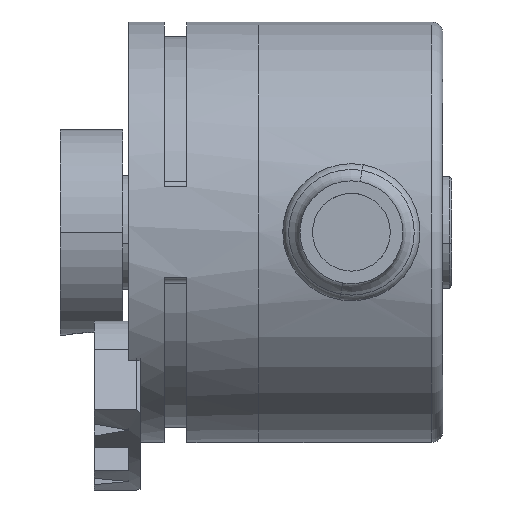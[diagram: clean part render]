
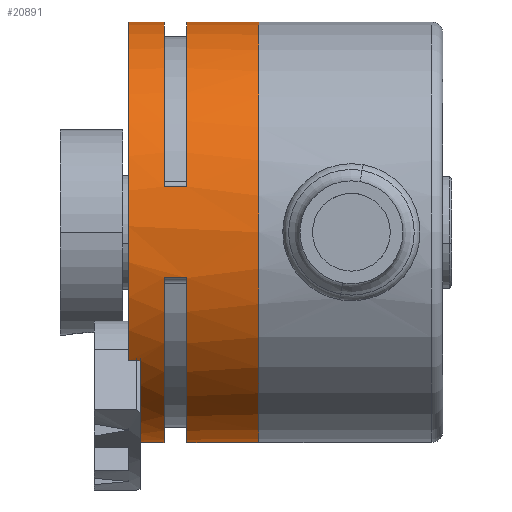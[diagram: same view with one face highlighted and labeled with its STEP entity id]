
A CAD part, front view. The second image highlights one B-rep face of the part: STEP entity #20891.
In plain terms, the highlighted cylindrical face has radius 18.4 mm (diameter 36.8 mm), a partial arc.
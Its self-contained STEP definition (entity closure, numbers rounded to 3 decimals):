
#15435 = CARTESIAN_POINT ( 'NONE',  ( 81.16, -19.944, -18.237 ) ) ;
#19491 = CARTESIAN_POINT ( 'NONE',  ( 86.26, -35.458, 4. ) ) ;
#19543 = DIRECTION ( 'NONE',  ( -1., 0., 0. ) ) ;
#19544 = VECTOR ( 'NONE', #19543, 1000. ) ;
#19545 = CARTESIAN_POINT ( 'NONE',  ( 82.16, -19.944, -18.237 ) ) ;
#19547 = LINE ( 'NONE', #19545, #19544 ) ;
#20066 = VERTEX_POINT ( 'NONE', #19491 ) ;
#20068 = EDGE_CURVE ( 'NONE', #21005, #35901, #19547, .T. ) ;
#20882 = ORIENTED_EDGE ( 'NONE', *, *, #20884, .T. ) ;
#20884 = EDGE_CURVE ( 'NONE', #23393, #20066, #23139, .T. ) ;
#20885 = ORIENTED_EDGE ( 'NONE', *, *, #20908, .T. ) ;
#20886 = ORIENTED_EDGE ( 'NONE', *, *, #23392, .T. ) ;
#20888 = ORIENTED_EDGE ( 'NONE', *, *, #23398, .F. ) ;
#20891 = ADVANCED_FACE ( 'NONE', ( #23117 ), #23208, .T. ) ;
#20895 = EDGE_LOOP ( 'NONE', ( #20888, #20885, #20886, #20882, #21018, #21014, #21020, #21022, #21002, #21006, #21010, #21117, #21062, #21111, #21108, #21036 ) ) ;
#20908 = EDGE_CURVE ( 'NONE', #23213, #23113, #23278, .T. ) ;
#20996 = VERTEX_POINT ( 'NONE', #25482 ) ;
#21002 = ORIENTED_EDGE ( 'NONE', *, *, #21004, .F. ) ;
#21004 = EDGE_CURVE ( 'NONE', #20996, #21012, #25477, .T. ) ;
#21005 = VERTEX_POINT ( 'NONE', #25470 ) ;
#21006 = ORIENTED_EDGE ( 'NONE', *, *, #21009, .F. ) ;
#21009 = EDGE_CURVE ( 'NONE', #21005, #20996, #25465, .T. ) ;
#21010 = ORIENTED_EDGE ( 'NONE', *, *, #20068, .T. ) ;
#21011 = EDGE_CURVE ( 'NONE', #21012, #23292, #25453, .T. ) ;
#21012 = VERTEX_POINT ( 'NONE', #25444 ) ;
#21014 = ORIENTED_EDGE ( 'NONE', *, *, #21016, .F. ) ;
#21016 = EDGE_CURVE ( 'NONE', #23250, #21024, #25436, .T. ) ;
#21018 = ORIENTED_EDGE ( 'NONE', *, *, #21021, .T. ) ;
#21020 = ORIENTED_EDGE ( 'NONE', *, *, #23359, .T. ) ;
#21021 = EDGE_CURVE ( 'NONE', #20066, #21024, #25438, .T. ) ;
#21022 = ORIENTED_EDGE ( 'NONE', *, *, #21011, .F. ) ;
#21024 = VERTEX_POINT ( 'NONE', #25420 ) ;
#21036 = ORIENTED_EDGE ( 'NONE', *, *, #21145, .T. ) ;
#21062 = ORIENTED_EDGE ( 'NONE', *, *, #23331, .F. ) ;
#21067 = VERTEX_POINT ( 'NONE', #25578 ) ;
#21071 = EDGE_CURVE ( 'NONE', #21138, #23341, #25664, .T. ) ;
#21108 = ORIENTED_EDGE ( 'NONE', *, *, #21160, .F. ) ;
#21111 = ORIENTED_EDGE ( 'NONE', *, *, #21071, .F. ) ;
#21117 = ORIENTED_EDGE ( 'NONE', *, *, #21150, .F. ) ;
#21138 = VERTEX_POINT ( 'NONE', #25876 ) ;
#21145 = EDGE_CURVE ( 'NONE', #21067, #23400, #25986, .T. ) ;
#21150 = EDGE_CURVE ( 'NONE', #23333, #35901, #25972, .T. ) ;
#21160 = EDGE_CURVE ( 'NONE', #21067, #21138, #26029, .T. ) ;
#23113 = VERTEX_POINT ( 'NONE', #33043 ) ;
#23117 = FACE_OUTER_BOUND ( 'NONE', #20895, .T. ) ;
#23119 = DIRECTION ( 'NONE',  ( 0., 0., -1. ) ) ;
#23121 = DIRECTION ( 'NONE',  ( 1., 0., 0. ) ) ;
#23123 = CARTESIAN_POINT ( 'NONE',  ( 86.26, -17.498, 0. ) ) ;
#23125 = AXIS2_PLACEMENT_3D ( 'NONE', #23123, #23121, #23119 ) ;
#23139 = CIRCLE ( 'NONE', #23125, 18.4 ) ;
#23203 = DIRECTION ( 'NONE',  ( 0., 0., 1. ) ) ;
#23205 = DIRECTION ( 'NONE',  ( -1., 0., 0. ) ) ;
#23206 = AXIS2_PLACEMENT_3D ( 'NONE', #23215, #23205, #23203 ) ;
#23208 = CYLINDRICAL_SURFACE ( 'NONE', #23206, 18.4 ) ;
#23213 = VERTEX_POINT ( 'NONE', #33157 ) ;
#23215 = CARTESIAN_POINT ( 'NONE',  ( 76.76, -17.498, 0. ) ) ;
#23250 = VERTEX_POINT ( 'NONE', #33201 ) ;
#23272 = DIRECTION ( 'NONE',  ( 0., 0., 1. ) ) ;
#23274 = DIRECTION ( 'NONE',  ( -1., 0., 0. ) ) ;
#23276 = AXIS2_PLACEMENT_3D ( 'NONE', #23288, #23274, #23272 ) ;
#23278 = CIRCLE ( 'NONE', #23276, 18.4 ) ;
#23288 = CARTESIAN_POINT ( 'NONE',  ( 92.56, -17.498, 0. ) ) ;
#23292 = VERTEX_POINT ( 'NONE', #33257 ) ;
#23331 = EDGE_CURVE ( 'NONE', #23341, #23333, #33328, .T. ) ;
#23333 = VERTEX_POINT ( 'NONE', #33324 ) ;
#23341 = VERTEX_POINT ( 'NONE', #33359 ) ;
#23359 = EDGE_CURVE ( 'NONE', #23250, #23292, #33410, .T. ) ;
#23392 = EDGE_CURVE ( 'NONE', #23113, #23393, #33493, .T. ) ;
#23393 = VERTEX_POINT ( 'NONE', #33489 ) ;
#23398 = EDGE_CURVE ( 'NONE', #23213, #23400, #33514, .T. ) ;
#23400 = VERTEX_POINT ( 'NONE', #33570 ) ;
#25420 = CARTESIAN_POINT ( 'NONE',  ( 84.26, -35.458, 4. ) ) ;
#25423 = DIRECTION ( 'NONE',  ( -1., 0., 0. ) ) ;
#25424 = VECTOR ( 'NONE', #25423, 1000. ) ;
#25426 = CARTESIAN_POINT ( 'NONE',  ( 86.26, -35.458, 4. ) ) ;
#25429 = DIRECTION ( 'NONE',  ( 0., 0., -1. ) ) ;
#25431 = DIRECTION ( 'NONE',  ( 1., 0., 0. ) ) ;
#25433 = CARTESIAN_POINT ( 'NONE',  ( 84.26, -17.498, 0. ) ) ;
#25434 = AXIS2_PLACEMENT_3D ( 'NONE', #25433, #25431, #25429 ) ;
#25436 = CIRCLE ( 'NONE', #25434, 18.4 ) ;
#25438 = LINE ( 'NONE', #25426, #25424 ) ;
#25444 = CARTESIAN_POINT ( 'NONE',  ( 81.16, -32.069, -11.237 ) ) ;
#25446 = DIRECTION ( 'NONE',  ( 0., 0., 1. ) ) ;
#25448 = DIRECTION ( 'NONE',  ( -1., 0., 0. ) ) ;
#25449 = CARTESIAN_POINT ( 'NONE',  ( 81.16, -17.498, 0. ) ) ;
#25451 = AXIS2_PLACEMENT_3D ( 'NONE', #25449, #25448, #25446 ) ;
#25453 = CIRCLE ( 'NONE', #25451, 18.4 ) ;
#25459 = DIRECTION ( 'NONE',  ( 0., 0., 1. ) ) ;
#25461 = DIRECTION ( 'NONE',  ( -1., 0., 0. ) ) ;
#25462 = CARTESIAN_POINT ( 'NONE',  ( 82.16, -17.498, 0. ) ) ;
#25464 = AXIS2_PLACEMENT_3D ( 'NONE', #25462, #25461, #25459 ) ;
#25465 = CIRCLE ( 'NONE', #25464, 18.4 ) ;
#25470 = CARTESIAN_POINT ( 'NONE',  ( 82.16, -19.944, -18.237 ) ) ;
#25472 = DIRECTION ( 'NONE',  ( -1., 0., 0. ) ) ;
#25474 = VECTOR ( 'NONE', #25472, 1000. ) ;
#25475 = CARTESIAN_POINT ( 'NONE',  ( 82.16, -32.069, -11.237 ) ) ;
#25477 = LINE ( 'NONE', #25475, #25474 ) ;
#25482 = CARTESIAN_POINT ( 'NONE',  ( 82.16, -32.069, -11.237 ) ) ;
#25578 = CARTESIAN_POINT ( 'NONE',  ( 86.26, -35.458, -4. ) ) ;
#25660 = DIRECTION ( 'NONE',  ( 0., 0., -1. ) ) ;
#25661 = DIRECTION ( 'NONE',  ( 1., 0., 0. ) ) ;
#25662 = CARTESIAN_POINT ( 'NONE',  ( 84.26, -17.498, 0. ) ) ;
#25663 = AXIS2_PLACEMENT_3D ( 'NONE', #25662, #25661, #25660 ) ;
#25664 = CIRCLE ( 'NONE', #25663, 18.4 ) ;
#25876 = CARTESIAN_POINT ( 'NONE',  ( 84.26, -35.458, -4. ) ) ;
#25966 = DIRECTION ( 'NONE',  ( 0., 0., 1. ) ) ;
#25969 = DIRECTION ( 'NONE',  ( -1., 0., 0. ) ) ;
#25970 = CARTESIAN_POINT ( 'NONE',  ( 81.16, -17.498, 0. ) ) ;
#25971 = AXIS2_PLACEMENT_3D ( 'NONE', #25970, #25969, #25966 ) ;
#25972 = CIRCLE ( 'NONE', #25971, 18.4 ) ;
#25979 = DIRECTION ( 'NONE',  ( 0., 0., -1. ) ) ;
#25981 = DIRECTION ( 'NONE',  ( 1., 0., 0. ) ) ;
#25984 = CARTESIAN_POINT ( 'NONE',  ( 86.26, -17.498, 0. ) ) ;
#25985 = AXIS2_PLACEMENT_3D ( 'NONE', #25984, #25981, #25979 ) ;
#25986 = CIRCLE ( 'NONE', #25985, 18.4 ) ;
#26026 = DIRECTION ( 'NONE',  ( -1., 0., 0. ) ) ;
#26027 = VECTOR ( 'NONE', #26026, 1000. ) ;
#26028 = CARTESIAN_POINT ( 'NONE',  ( 86.26, -35.458, -4. ) ) ;
#26029 = LINE ( 'NONE', #26028, #26027 ) ;
#33043 = CARTESIAN_POINT ( 'NONE',  ( 92.56, -17.498, 18.4 ) ) ;
#33157 = CARTESIAN_POINT ( 'NONE',  ( 92.56, -17.498, -18.4 ) ) ;
#33201 = CARTESIAN_POINT ( 'NONE',  ( 84.26, -17.498, 18.4 ) ) ;
#33257 = CARTESIAN_POINT ( 'NONE',  ( 81.16, -17.498, 18.4 ) ) ;
#33324 = CARTESIAN_POINT ( 'NONE',  ( 81.16, -17.498, -18.4 ) ) ;
#33325 = DIRECTION ( 'NONE',  ( -1., 0., 0. ) ) ;
#33326 = VECTOR ( 'NONE', #33325, 1000. ) ;
#33327 = CARTESIAN_POINT ( 'NONE',  ( 76.76, -17.498, -18.4 ) ) ;
#33328 = LINE ( 'NONE', #33327, #33326 ) ;
#33359 = CARTESIAN_POINT ( 'NONE',  ( 84.26, -17.498, -18.4 ) ) ;
#33403 = DIRECTION ( 'NONE',  ( -1., 0., 0. ) ) ;
#33404 = VECTOR ( 'NONE', #33403, 1000. ) ;
#33405 = CARTESIAN_POINT ( 'NONE',  ( 76.76, -17.498, 18.4 ) ) ;
#33410 = LINE ( 'NONE', #33405, #33404 ) ;
#33489 = CARTESIAN_POINT ( 'NONE',  ( 86.26, -17.498, 18.4 ) ) ;
#33490 = DIRECTION ( 'NONE',  ( -1., 0., 0. ) ) ;
#33491 = VECTOR ( 'NONE', #33490, 1000. ) ;
#33492 = CARTESIAN_POINT ( 'NONE',  ( 76.76, -17.498, 18.4 ) ) ;
#33493 = LINE ( 'NONE', #33492, #33491 ) ;
#33513 = CARTESIAN_POINT ( 'NONE',  ( 76.76, -17.498, -18.4 ) ) ;
#33514 = LINE ( 'NONE', #33513, #33572 ) ;
#33570 = CARTESIAN_POINT ( 'NONE',  ( 86.26, -17.498, -18.4 ) ) ;
#33571 = DIRECTION ( 'NONE',  ( -1., 0., 0. ) ) ;
#33572 = VECTOR ( 'NONE', #33571, 1000. ) ;
#35901 = VERTEX_POINT ( 'NONE', #15435 ) ;
